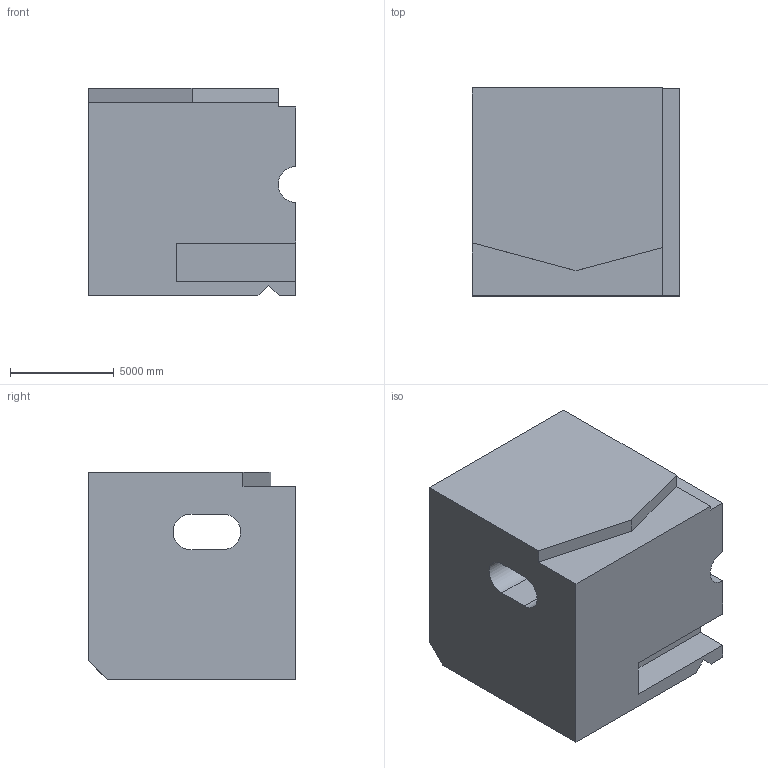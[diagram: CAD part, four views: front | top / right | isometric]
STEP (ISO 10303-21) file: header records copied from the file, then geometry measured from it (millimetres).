
FILE_DESCRIPTION (( 'STEP AP203' ), '1' );
FILE_NAME ('70.STEP', '2022-08-30T14:20:59', ( 'user' ), ( '' ), 'SwSTEP 2.0', 'SolidWorks 2021', '' );
FILE_SCHEMA (( 'CONFIG_CONTROL_DESIGN' ));
Length unit declared in the file: centimetre
Products named in the file (1): 70
Bounding box: 10000 x 10000 x 10000 mm (x, y, z)
Volume: 886989806449.4 mm3; surface area: 713171336.5 mm2
Topology: 1 solids, 1 shells, 28 faces, 81 edges, 54 vertices
Faces by surface type: plane 23, cylinder 5
Entity records: 1196 total; most frequent: CARTESIAN_POINT 364, ORIENTED_EDGE 162, DIRECTION 147, EDGE_CURVE 81, LINE 69, VECTOR 69, VERTEX_POINT 54, AXIS2_PLACEMENT_3D 39
